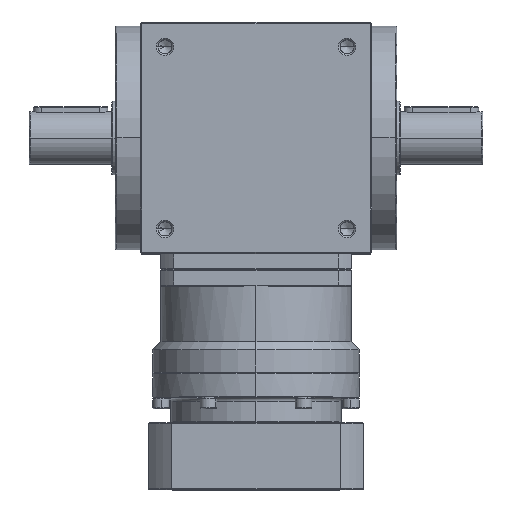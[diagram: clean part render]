
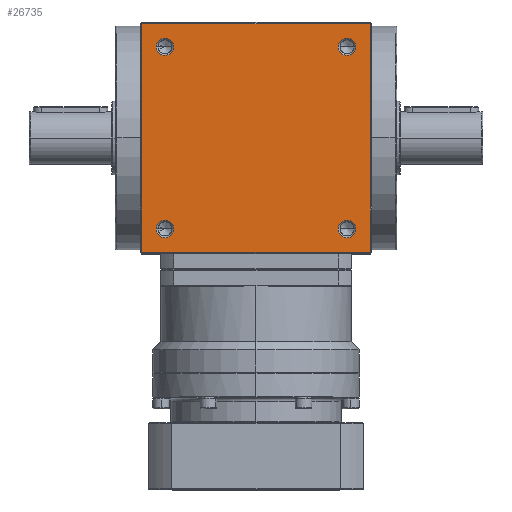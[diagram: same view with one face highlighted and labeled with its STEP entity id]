
A CAD part, top view. The second image highlights one B-rep face of the part: STEP entity #26735.
In plain terms, the highlighted planar face has unit normal (0, 0, 1).
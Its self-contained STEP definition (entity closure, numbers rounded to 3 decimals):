
#619 = EDGE_CURVE ( 'NONE', #1975, #29770, #28276, .T. ) ;
#818 = ORIENTED_EDGE ( 'NONE', *, *, #12350, .F. ) ;
#966 = CARTESIAN_POINT ( 'NONE',  ( -49.75, -55., 70. ) ) ;
#1270 = FACE_OUTER_BOUND ( 'NONE', #1585, .T. ) ;
#1478 = CARTESIAN_POINT ( 'NONE',  ( -55., -55., 70. ) ) ;
#1585 = EDGE_LOOP ( 'NONE', ( #16580, #22034, #30412, #23728 ) ) ;
#1811 = CARTESIAN_POINT ( 'NONE',  ( 49.75, -55., 70. ) ) ;
#1975 = VERTEX_POINT ( 'NONE', #22950 ) ;
#3092 = CARTESIAN_POINT ( 'NONE',  ( 69., -69., 70. ) ) ;
#3267 = DIRECTION ( 'NONE',  ( 0., 0., 1. ) ) ;
#3579 = LINE ( 'NONE', #14882, #25604 ) ;
#4021 = CARTESIAN_POINT ( 'NONE',  ( 60.25, -55., 70. ) ) ;
#4135 = EDGE_LOOP ( 'NONE', ( #15381, #10449 ) ) ;
#4149 = DIRECTION ( 'NONE',  ( 1., 0., 0. ) ) ;
#4513 = EDGE_CURVE ( 'NONE', #25121, #10305, #3579, .T. ) ;
#4789 = CARTESIAN_POINT ( 'NONE',  ( 55., 55., 70. ) ) ;
#6424 = AXIS2_PLACEMENT_3D ( 'NONE', #31093, #3267, #20140 ) ;
#6581 = DIRECTION ( 'NONE',  ( 0., 1., 0. ) ) ;
#6730 = CARTESIAN_POINT ( 'NONE',  ( 55., -55., 70. ) ) ;
#6804 = PLANE ( 'NONE',  #29468 ) ;
#6885 = CIRCLE ( 'NONE', #27651, 5.25 ) ;
#6962 = LINE ( 'NONE', #32387, #32097 ) ;
#7147 = AXIS2_PLACEMENT_3D ( 'NONE', #12494, #18070, #4149 ) ;
#7770 = DIRECTION ( 'NONE',  ( 1., 0., 0. ) ) ;
#7961 = EDGE_CURVE ( 'NONE', #23240, #23334, #18898, .T. ) ;
#8391 = VERTEX_POINT ( 'NONE', #12441 ) ;
#8774 = ORIENTED_EDGE ( 'NONE', *, *, #619, .F. ) ;
#9842 = VECTOR ( 'NONE', #19673, 1000. ) ;
#10172 = DIRECTION ( 'NONE',  ( 1., 0., 0. ) ) ;
#10305 = VERTEX_POINT ( 'NONE', #28614 ) ;
#10449 = ORIENTED_EDGE ( 'NONE', *, *, #17592, .F. ) ;
#10516 = DIRECTION ( 'NONE',  ( 1., 0., 0. ) ) ;
#10898 = DIRECTION ( 'NONE',  ( 1., 0., 0. ) ) ;
#10982 = EDGE_CURVE ( 'NONE', #34239, #27451, #26192, .T. ) ;
#12350 = EDGE_CURVE ( 'NONE', #29770, #1975, #33677, .T. ) ;
#12441 = CARTESIAN_POINT ( 'NONE',  ( -60.25, 55., 70. ) ) ;
#12476 = CARTESIAN_POINT ( 'NONE',  ( -49.75, 55., 70. ) ) ;
#12494 = CARTESIAN_POINT ( 'NONE',  ( -55., 55., 70. ) ) ;
#12860 = AXIS2_PLACEMENT_3D ( 'NONE', #21591, #32913, #30142 ) ;
#13223 = VECTOR ( 'NONE', #6581, 1000. ) ;
#14092 = CIRCLE ( 'NONE', #34837, 5.25 ) ;
#14882 = CARTESIAN_POINT ( 'NONE',  ( 0., 69., 70. ) ) ;
#15381 = ORIENTED_EDGE ( 'NONE', *, *, #7961, .F. ) ;
#16102 = DIRECTION ( 'NONE',  ( 0., 0., 1. ) ) ;
#16580 = ORIENTED_EDGE ( 'NONE', *, *, #21256, .T. ) ;
#17274 = FACE_BOUND ( 'NONE', #19362, .T. ) ;
#17502 = ORIENTED_EDGE ( 'NONE', *, *, #30753, .F. ) ;
#17592 = EDGE_CURVE ( 'NONE', #23334, #23240, #35366, .T. ) ;
#17715 = AXIS2_PLACEMENT_3D ( 'NONE', #6730, #18430, #29750 ) ;
#18070 = DIRECTION ( 'NONE',  ( 0., 0., 1. ) ) ;
#18129 = CARTESIAN_POINT ( 'NONE',  ( 0., 0., 70. ) ) ;
#18175 = AXIS2_PLACEMENT_3D ( 'NONE', #1478, #24633, #10516 ) ;
#18401 = EDGE_CURVE ( 'NONE', #27451, #34239, #14092, .T. ) ;
#18430 = DIRECTION ( 'NONE',  ( 0., 0., 1. ) ) ;
#18898 = CIRCLE ( 'NONE', #17715, 5.25 ) ;
#18956 = CARTESIAN_POINT ( 'NONE',  ( -69., -69., 70. ) ) ;
#19362 = EDGE_LOOP ( 'NONE', ( #17502, #28183 ) ) ;
#19673 = DIRECTION ( 'NONE',  ( 0., -1., 0. ) ) ;
#19680 = FACE_BOUND ( 'NONE', #36288, .T. ) ;
#20140 = DIRECTION ( 'NONE',  ( 1., 0., 0. ) ) ;
#20147 = LINE ( 'NONE', #26090, #13223 ) ;
#21130 = VERTEX_POINT ( 'NONE', #3092 ) ;
#21256 = EDGE_CURVE ( 'NONE', #21130, #25121, #20147, .T. ) ;
#21591 = CARTESIAN_POINT ( 'NONE',  ( 55., -55., 70. ) ) ;
#21686 = VERTEX_POINT ( 'NONE', #12476 ) ;
#22034 = ORIENTED_EDGE ( 'NONE', *, *, #4513, .T. ) ;
#22451 = EDGE_LOOP ( 'NONE', ( #818, #8774 ) ) ;
#22716 = EDGE_CURVE ( 'NONE', #10305, #23821, #34135, .T. ) ;
#22950 = CARTESIAN_POINT ( 'NONE',  ( -60.25, -55., 70. ) ) ;
#22954 = EDGE_CURVE ( 'NONE', #8391, #21686, #6885, .T. ) ;
#23240 = VERTEX_POINT ( 'NONE', #4021 ) ;
#23334 = VERTEX_POINT ( 'NONE', #1811 ) ;
#23728 = ORIENTED_EDGE ( 'NONE', *, *, #30325, .T. ) ;
#23821 = VERTEX_POINT ( 'NONE', #18956 ) ;
#24222 = DIRECTION ( 'NONE',  ( 1., 0., 0. ) ) ;
#24633 = DIRECTION ( 'NONE',  ( 0., 0., 1. ) ) ;
#25121 = VERTEX_POINT ( 'NONE', #26827 ) ;
#25448 = FACE_BOUND ( 'NONE', #4135, .T. ) ;
#25604 = VECTOR ( 'NONE', #26224, 1000. ) ;
#26090 = CARTESIAN_POINT ( 'NONE',  ( 69., 0., 70. ) ) ;
#26192 = CIRCLE ( 'NONE', #33304, 5.25 ) ;
#26224 = DIRECTION ( 'NONE',  ( -1., 0., 0. ) ) ;
#26735 = ADVANCED_FACE ( 'NONE', ( #1270, #25448, #33778, #19680, #17274 ), #6804, .F. ) ;
#26827 = CARTESIAN_POINT ( 'NONE',  ( 69., 69., 70. ) ) ;
#27451 = VERTEX_POINT ( 'NONE', #28099 ) ;
#27651 = AXIS2_PLACEMENT_3D ( 'NONE', #35601, #36151, #10172 ) ;
#28099 = CARTESIAN_POINT ( 'NONE',  ( 60.25, 55., 70. ) ) ;
#28183 = ORIENTED_EDGE ( 'NONE', *, *, #22954, .F. ) ;
#28276 = CIRCLE ( 'NONE', #18175, 5.25 ) ;
#28502 = CARTESIAN_POINT ( 'NONE',  ( 49.75, 55., 70. ) ) ;
#28614 = CARTESIAN_POINT ( 'NONE',  ( -69., 69., 70. ) ) ;
#29449 = DIRECTION ( 'NONE',  ( 0., 0., -1. ) ) ;
#29468 = AXIS2_PLACEMENT_3D ( 'NONE', #18129, #29449, #31003 ) ;
#29750 = DIRECTION ( 'NONE',  ( 1., 0., 0. ) ) ;
#29770 = VERTEX_POINT ( 'NONE', #966 ) ;
#30142 = DIRECTION ( 'NONE',  ( 1., 0., 0. ) ) ;
#30251 = CIRCLE ( 'NONE', #7147, 5.25 ) ;
#30325 = EDGE_CURVE ( 'NONE', #23821, #21130, #6962, .T. ) ;
#30412 = ORIENTED_EDGE ( 'NONE', *, *, #22716, .T. ) ;
#30753 = EDGE_CURVE ( 'NONE', #21686, #8391, #30251, .T. ) ;
#30996 = CARTESIAN_POINT ( 'NONE',  ( -69., 0., 70. ) ) ;
#31003 = DIRECTION ( 'NONE',  ( -1., 0., 0. ) ) ;
#31093 = CARTESIAN_POINT ( 'NONE',  ( -55., -55., 70. ) ) ;
#32097 = VECTOR ( 'NONE', #24222, 1000. ) ;
#32387 = CARTESIAN_POINT ( 'NONE',  ( 0., -69., 70. ) ) ;
#32906 = ORIENTED_EDGE ( 'NONE', *, *, #10982, .F. ) ;
#32913 = DIRECTION ( 'NONE',  ( 0., 0., 1. ) ) ;
#33011 = CARTESIAN_POINT ( 'NONE',  ( 55., 55., 70. ) ) ;
#33198 = DIRECTION ( 'NONE',  ( 0., 0., 1. ) ) ;
#33304 = AXIS2_PLACEMENT_3D ( 'NONE', #4789, #16102, #10898 ) ;
#33677 = CIRCLE ( 'NONE', #6424, 5.25 ) ;
#33778 = FACE_BOUND ( 'NONE', #22451, .T. ) ;
#34135 = LINE ( 'NONE', #30996, #9842 ) ;
#34239 = VERTEX_POINT ( 'NONE', #28502 ) ;
#34837 = AXIS2_PLACEMENT_3D ( 'NONE', #33011, #33198, #7770 ) ;
#34921 = ORIENTED_EDGE ( 'NONE', *, *, #18401, .F. ) ;
#35366 = CIRCLE ( 'NONE', #12860, 5.25 ) ;
#35601 = CARTESIAN_POINT ( 'NONE',  ( -55., 55., 70. ) ) ;
#36151 = DIRECTION ( 'NONE',  ( 0., 0., 1. ) ) ;
#36288 = EDGE_LOOP ( 'NONE', ( #34921, #32906 ) ) ;
